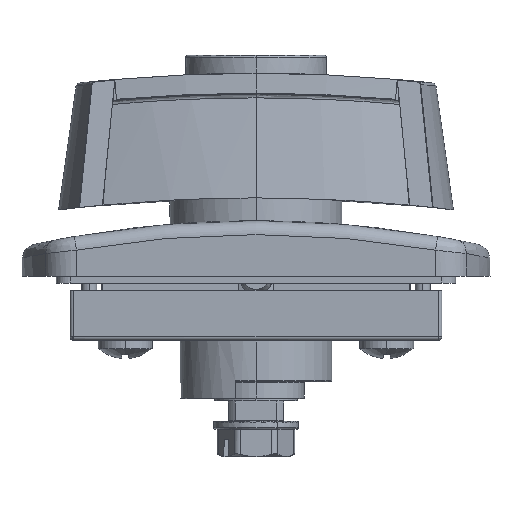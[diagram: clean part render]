
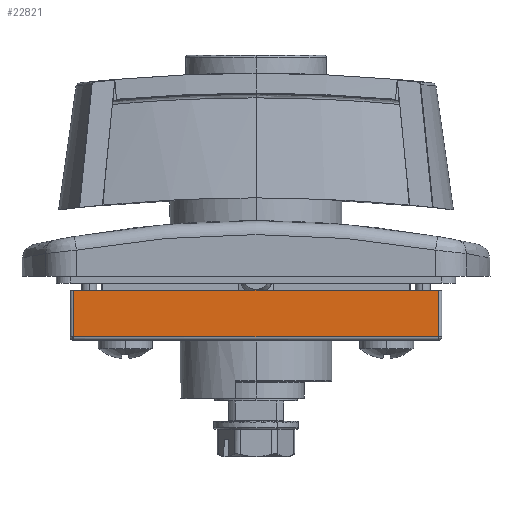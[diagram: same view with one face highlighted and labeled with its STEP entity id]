
A CAD part, left-side view. The second image highlights one B-rep face of the part: STEP entity #22821.
In plain terms, the highlighted planar face has unit normal (-1, 0, 0) as drawn and (0, -1, 0) by its records, which use the part's own axes.
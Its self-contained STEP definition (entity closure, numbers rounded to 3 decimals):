
#1114 = EDGE_CURVE ( 'NONE', #19425, #8087, #8472, .T. ) ;
#1306 = EDGE_LOOP ( 'NONE', ( #14674, #2205, #17078, #26809 ) ) ;
#1689 = AXIS2_PLACEMENT_3D ( 'NONE', #13126, #12830, #12826 ) ;
#2062 = CARTESIAN_POINT ( 'NONE',  ( 373.775, 201.907, 374. ) ) ;
#2205 = ORIENTED_EDGE ( 'NONE', *, *, #1114, .T. ) ;
#3829 = VERTEX_POINT ( 'NONE', #11864 ) ;
#6949 = LINE ( 'NONE', #2062, #7016 ) ;
#7016 = VECTOR ( 'NONE', #15969, 1000. ) ;
#7242 = DIRECTION ( 'NONE',  ( 1., 0., 0. ) ) ;
#7602 = EDGE_CURVE ( 'NONE', #19425, #18995, #10797, .T. ) ;
#8087 = VERTEX_POINT ( 'NONE', #20980 ) ;
#8301 = EDGE_CURVE ( 'NONE', #3829, #18995, #6949, .T. ) ;
#8404 = VECTOR ( 'NONE', #7242, 1000. ) ;
#8472 = LINE ( 'NONE', #22992, #8404 ) ;
#10340 = EDGE_CURVE ( 'NONE', #8087, #3829, #28868, .T. ) ;
#10797 = LINE ( 'NONE', #26288, #11473 ) ;
#11473 = VECTOR ( 'NONE', #21304, 1000. ) ;
#11864 = CARTESIAN_POINT ( 'NONE',  ( 380.775, 201.907, 374. ) ) ;
#12710 = CARTESIAN_POINT ( 'NONE',  ( 380.775, 201.907, 320.5 ) ) ;
#12826 = DIRECTION ( 'NONE',  ( 0., 0., -1. ) ) ;
#12830 = DIRECTION ( 'NONE',  ( 0., -1., 0. ) ) ;
#12872 = PLANE ( 'NONE',  #1689 ) ;
#13126 = CARTESIAN_POINT ( 'NONE',  ( 373.775, 201.907, 320.5 ) ) ;
#13808 = CARTESIAN_POINT ( 'NONE',  ( 373.975, 201.907, 321. ) ) ;
#14674 = ORIENTED_EDGE ( 'NONE', *, *, #7602, .F. ) ;
#15969 = DIRECTION ( 'NONE',  ( -1., 0., 0. ) ) ;
#17078 = ORIENTED_EDGE ( 'NONE', *, *, #10340, .T. ) ;
#18995 = VERTEX_POINT ( 'NONE', #20265 ) ;
#19425 = VERTEX_POINT ( 'NONE', #13808 ) ;
#20265 = CARTESIAN_POINT ( 'NONE',  ( 373.975, 201.907, 374. ) ) ;
#20980 = CARTESIAN_POINT ( 'NONE',  ( 380.775, 201.907, 321. ) ) ;
#21304 = DIRECTION ( 'NONE',  ( 0., 0., 1. ) ) ;
#22821 = ADVANCED_FACE ( 'NONE', ( #29191 ), #12872, .T. ) ;
#22992 = CARTESIAN_POINT ( 'NONE',  ( 373.775, 201.907, 321. ) ) ;
#26288 = CARTESIAN_POINT ( 'NONE',  ( 373.975, 201.907, 374. ) ) ;
#26809 = ORIENTED_EDGE ( 'NONE', *, *, #8301, .T. ) ;
#28752 = VECTOR ( 'NONE', #31377, 1000. ) ;
#28868 = LINE ( 'NONE', #12710, #28752 ) ;
#29191 = FACE_OUTER_BOUND ( 'NONE', #1306, .T. ) ;
#31377 = DIRECTION ( 'NONE',  ( 0., 0., 1. ) ) ;
